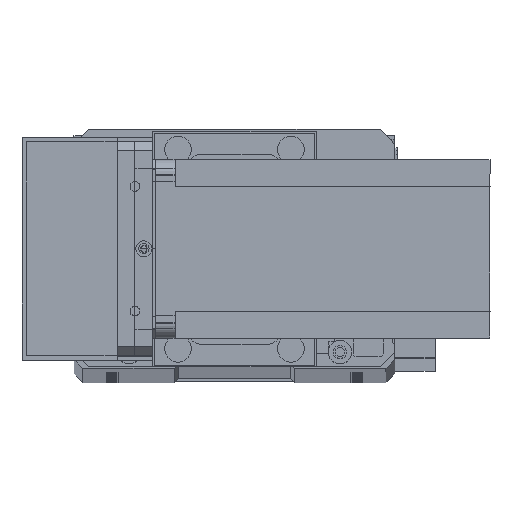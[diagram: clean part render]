
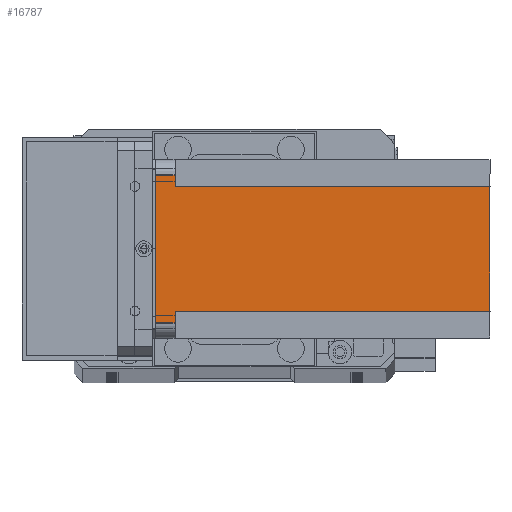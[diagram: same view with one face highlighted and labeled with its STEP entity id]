
A CAD part, top view. The second image highlights one B-rep face of the part: STEP entity #16787.
In plain terms, the highlighted planar face has unit normal (0, 0, 1) as drawn and (1, 0, 0) by its records, which use the part's own axes.
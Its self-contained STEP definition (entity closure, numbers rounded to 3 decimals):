
#1208 = VECTOR ( 'NONE', #14986, 1000. ) ;
#1760 = VERTEX_POINT ( 'NONE', #27240 ) ;
#2711 = EDGE_LOOP ( 'NONE', ( #25858, #32889, #15684, #20777, #12519, #17002, #13048, #32696 ) ) ;
#3213 = DIRECTION ( 'NONE',  ( 0., 1., 0. ) ) ;
#4042 = VECTOR ( 'NONE', #23100, 1000. ) ;
#4121 = EDGE_CURVE ( 'NONE', #11092, #27725, #22458, .T. ) ;
#5190 = CARTESIAN_POINT ( 'NONE',  ( 60., 55., -6.5 ) ) ;
#5287 = VECTOR ( 'NONE', #30232, 1000. ) ;
#5599 = EDGE_CURVE ( 'NONE', #21530, #17781, #32754, .T. ) ;
#6284 = CARTESIAN_POINT ( 'NONE',  ( 60., 9., -112.5 ) ) ;
#6531 = CARTESIAN_POINT ( 'NONE',  ( 60., 51., -6.5 ) ) ;
#6805 = CARTESIAN_POINT ( 'NONE',  ( 60., 0., -112.5 ) ) ;
#8452 = EDGE_CURVE ( 'NONE', #11092, #17781, #32567, .T. ) ;
#9903 = VERTEX_POINT ( 'NONE', #14479 ) ;
#9982 = VECTOR ( 'NONE', #13496, 1000. ) ;
#10805 = CARTESIAN_POINT ( 'NONE',  ( 60., 5., 0. ) ) ;
#10985 = EDGE_CURVE ( 'NONE', #13829, #9903, #15471, .T. ) ;
#11092 = VERTEX_POINT ( 'NONE', #6284 ) ;
#11645 = CARTESIAN_POINT ( 'NONE',  ( 60., 51., -112.5 ) ) ;
#12142 = VECTOR ( 'NONE', #16222, 1000. ) ;
#12170 = DIRECTION ( 'NONE',  ( 0., 1., 0. ) ) ;
#12519 = ORIENTED_EDGE ( 'NONE', *, *, #28385, .F. ) ;
#13048 = ORIENTED_EDGE ( 'NONE', *, *, #8452, .T. ) ;
#13496 = DIRECTION ( 'NONE',  ( 0., -1., 0. ) ) ;
#13559 = CARTESIAN_POINT ( 'NONE',  ( 60., 55., -112.5 ) ) ;
#13818 = CARTESIAN_POINT ( 'NONE',  ( 60., 0., -112.5 ) ) ;
#13829 = VERTEX_POINT ( 'NONE', #10805 ) ;
#14235 = EDGE_CURVE ( 'NONE', #33338, #21530, #32343, .T. ) ;
#14479 = CARTESIAN_POINT ( 'NONE',  ( 60., 5., -6.5 ) ) ;
#14986 = DIRECTION ( 'NONE',  ( 0., 0., 1. ) ) ;
#15471 = LINE ( 'NONE', #29783, #20877 ) ;
#15684 = ORIENTED_EDGE ( 'NONE', *, *, #23152, .F. ) ;
#15993 = CARTESIAN_POINT ( 'NONE',  ( 60., 9., -6.5 ) ) ;
#16153 = CARTESIAN_POINT ( 'NONE',  ( 60., 0., -6.5 ) ) ;
#16222 = DIRECTION ( 'NONE',  ( 0., 0., 1. ) ) ;
#16787 = ADVANCED_FACE ( 'NONE', ( #32988 ), #25406, .T. ) ;
#17002 = ORIENTED_EDGE ( 'NONE', *, *, #4121, .F. ) ;
#17062 = LINE ( 'NONE', #16153, #9982 ) ;
#17781 = VERTEX_POINT ( 'NONE', #21711 ) ;
#19789 = AXIS2_PLACEMENT_3D ( 'NONE', #6805, #28091, #12170 ) ;
#20147 = LINE ( 'NONE', #23803, #25512 ) ;
#20351 = CARTESIAN_POINT ( 'NONE',  ( 60., 9., -112.5 ) ) ;
#20777 = ORIENTED_EDGE ( 'NONE', *, *, #10985, .T. ) ;
#20877 = VECTOR ( 'NONE', #32449, 1000. ) ;
#21530 = VERTEX_POINT ( 'NONE', #6531 ) ;
#21711 = CARTESIAN_POINT ( 'NONE',  ( 60., 51., -112.5 ) ) ;
#22458 = LINE ( 'NONE', #20351, #1208 ) ;
#23100 = DIRECTION ( 'NONE',  ( 0., -1., 0. ) ) ;
#23152 = EDGE_CURVE ( 'NONE', #13829, #1760, #20147, .T. ) ;
#23803 = CARTESIAN_POINT ( 'NONE',  ( 60., 0., 0. ) ) ;
#24668 = VECTOR ( 'NONE', #3213, 1000. ) ;
#25406 = PLANE ( 'NONE',  #19789 ) ;
#25512 = VECTOR ( 'NONE', #31831, 1000. ) ;
#25759 = CARTESIAN_POINT ( 'NONE',  ( 60., 60., -6.5 ) ) ;
#25858 = ORIENTED_EDGE ( 'NONE', *, *, #14235, .F. ) ;
#27120 = LINE ( 'NONE', #13559, #12142 ) ;
#27240 = CARTESIAN_POINT ( 'NONE',  ( 60., 55., 0. ) ) ;
#27725 = VERTEX_POINT ( 'NONE', #15993 ) ;
#28091 = DIRECTION ( 'NONE',  ( 1., 0., 0. ) ) ;
#28385 = EDGE_CURVE ( 'NONE', #27725, #9903, #17062, .T. ) ;
#29783 = CARTESIAN_POINT ( 'NONE',  ( 60., 5., -112.5 ) ) ;
#30232 = DIRECTION ( 'NONE',  ( 0., 0., -1. ) ) ;
#31662 = EDGE_CURVE ( 'NONE', #33338, #1760, #27120, .T. ) ;
#31831 = DIRECTION ( 'NONE',  ( 0., 1., 0. ) ) ;
#32343 = LINE ( 'NONE', #25759, #4042 ) ;
#32449 = DIRECTION ( 'NONE',  ( 0., 0., -1. ) ) ;
#32567 = LINE ( 'NONE', #13818, #24668 ) ;
#32696 = ORIENTED_EDGE ( 'NONE', *, *, #5599, .F. ) ;
#32754 = LINE ( 'NONE', #11645, #5287 ) ;
#32889 = ORIENTED_EDGE ( 'NONE', *, *, #31662, .T. ) ;
#32988 = FACE_OUTER_BOUND ( 'NONE', #2711, .T. ) ;
#33338 = VERTEX_POINT ( 'NONE', #5190 ) ;
